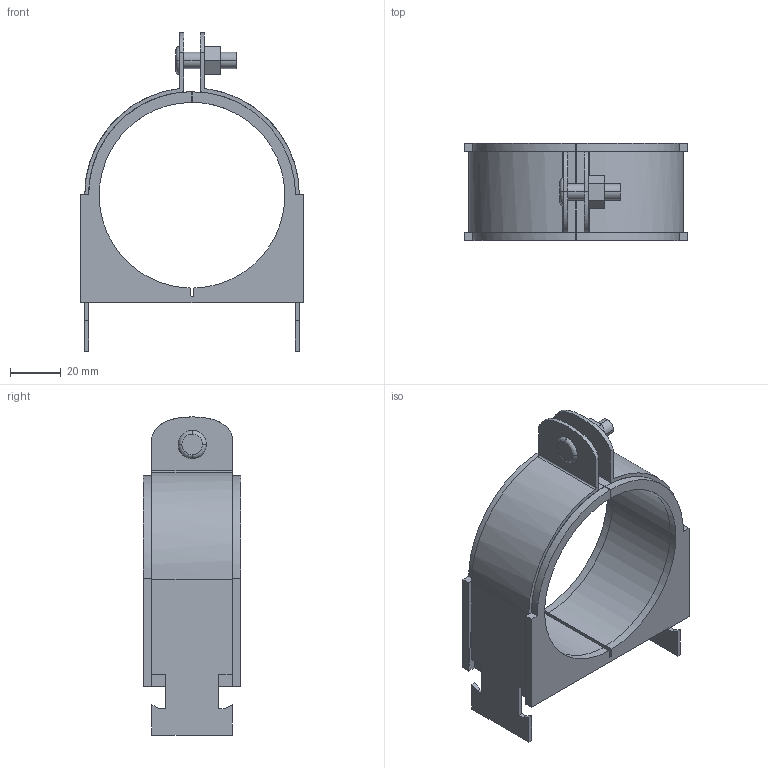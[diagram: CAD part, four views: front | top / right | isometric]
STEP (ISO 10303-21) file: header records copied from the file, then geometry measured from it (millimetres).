
FILE_DESCRIPTION(('TurboCAD Mac Pro'),'Build 980');
FILE_NAME('046N05.stp',' ',(''),(''),'ACIS Interop','IMSI','TurboCAD Mac Pro BY IMSI, INCORPORATED');
FILE_SCHEMA(('automotive_design'));
Length unit declared in the file: inch
Products named in the file (2): 1; 2
Bounding box: 87.5 x 38.1 x 124.97 mm (x, y, z)
Volume: 86709 mm3; surface area: 44379.9 mm2
Topology: 2 solids, 2 shells, 134 faces, 359 edges, 234 vertices
Faces by surface type: plane 88, bspline 46
Entity records: 6606 total; most frequent: CARTESIAN_POINT 1683, ORIENTED_EDGE 718, DIRECTION 439, EDGE_CURVE 359, STYLED_ITEM 296, PRESENTATION_STYLE_ASSIGNMENT 296, COLOUR_RGB 296, LINE 251
